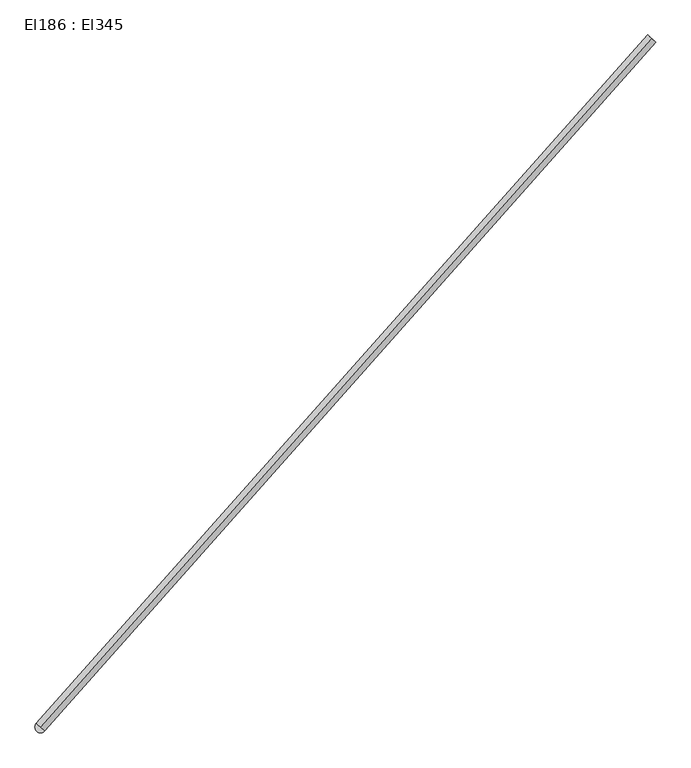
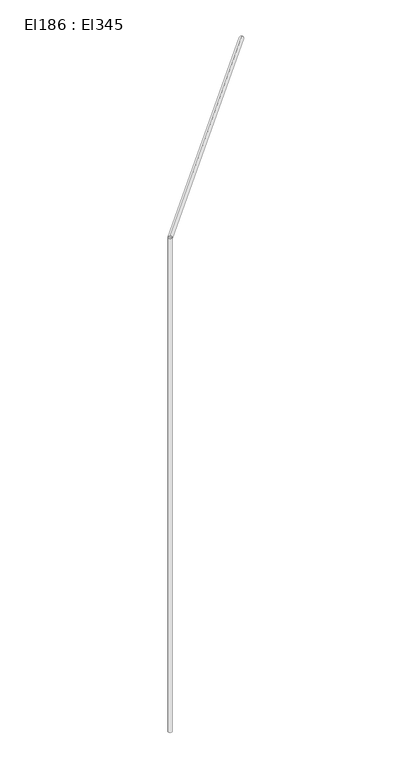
"""IFC4 building model written with IfcOpenShell, lengths in millimetres: cable carrier segment geometry, El186 : El345."""

from ifc_helpers import new_model, si_unit, point, frame, frame_2d, origin, place, context, project, spatial, circle_curve, trimmed, segment, composite_curve, outline, extrude, source, transform, mapped, element, save


def el186_el345_cefd5e52(model_context):
    return source(origin(), model_context, "Body", "SweptSolid", [
        extrude(outline(composite_curve([segment(trimmed(circle_curve(frame_2d((5960.3256511, 66.0101745)), 9.5), [point((5950.8256511, 66.0101745))], [point((5969.8256511, 66.0101745))], False, "CARTESIAN"), True, "CONTINUOUS"), segment(trimmed(circle_curve(frame_2d((5960.3256511, 66.0101745)), 9.5), [point((5969.8256511, 66.0101745))], [point((5950.8256511, 66.0101745))], False, "CARTESIAN"), True, "CONTINUOUS")], self_intersect=False)), frame((0.0, 0.0, 1830.0), z_axis=(0.0, 0.0, 1.0), x_axis=(1.0, 0.0, 0.0)), (0.0, 0.0, 1.0), 2620.0),
        extrude(outline(composite_curve([segment(trimmed(circle_curve(frame_2d((0.0, -9.5)), 9.5), [point((0.0, -19.0))], [point((0.0, 0.0))], False, "CARTESIAN"), True, "CONTINUOUS"), segment(trimmed(circle_curve(frame_2d((0.0, -9.5)), 9.5), [point((0.0, 0.0))], [point((0.0, -19.0))], False, "CARTESIAN"), True, "CONTINUOUS")], self_intersect=False)), frame((5960.3241197, 66.0080699, 4459.5), z_axis=(0.6638699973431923, 0.7478479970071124, 0.0), x_axis=(-0.7478479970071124, 0.6638699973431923, 0.0)), (0.0, 0.0, 1.0), 1546.65),
    ])


if __name__ == "__main__":
    model = new_model("IFC4")
    model_context = context("Model", 3, world=origin())
    ifc_project = project(units=[si_unit("LENGTHUNIT", "METRE", prefix="MILLI")], contexts=[model_context])
    site = spatial("IfcSite", under=ifc_project)
    building = spatial("IfcBuilding", under=site)
    placement = place(None, origin())
    el186_el345_shape = el186_el345_cefd5e52(model_context)
    element("IfcCableCarrierSegment", 1, ObjectType="El186 : El345", at=placement, inside=building, context=model_context, shape_type="MappedRepresentation", body=[
        mapped(el186_el345_shape, transform((0.0, 0.0, 0.0), x_axis=(1.0, 0.0, 0.0), y_axis=(0.0, 1.0, 0.0), z_axis=(0.0, 0.0, 1.0))),
    ])
    save(model, "model.ifc")
